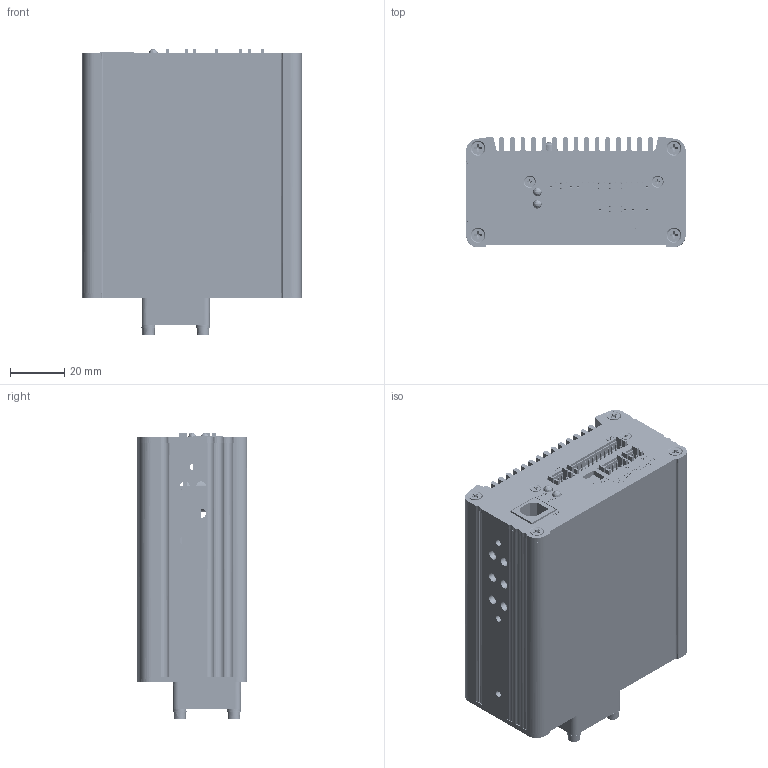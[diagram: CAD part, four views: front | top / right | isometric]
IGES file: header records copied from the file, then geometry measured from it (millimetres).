
Start section: SolidWorks IGES file using analytic representation for surfaces
Global section: file name: D:\Dropbox\Solidworks Data\kou\PSMD\PSMD-PCC_Ver2.IGS; native system: SolidWorks 2019; preprocessor: SolidWorks 2019; author: kou; date: 201211.132237; units: millimetre
Bounding box: 80.65 x 40.7 x 105.1 mm (x, y, z)
Surface area: 119006.4 mm2 (no closed solid volume)
Topology: 0 solids, 0 shells, 4723 faces, 38194 edges, 38148 vertices
Faces by surface type: bspline 4723
